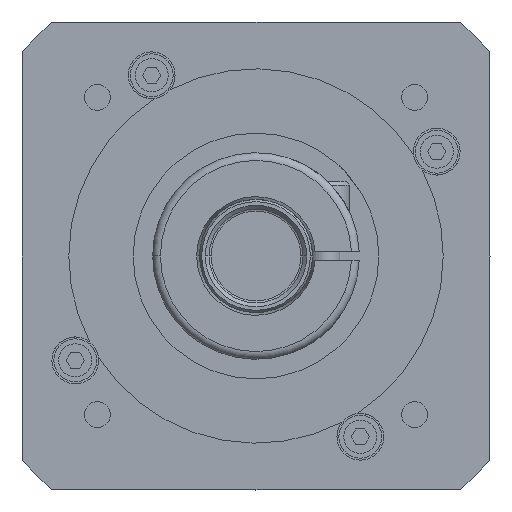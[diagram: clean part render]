
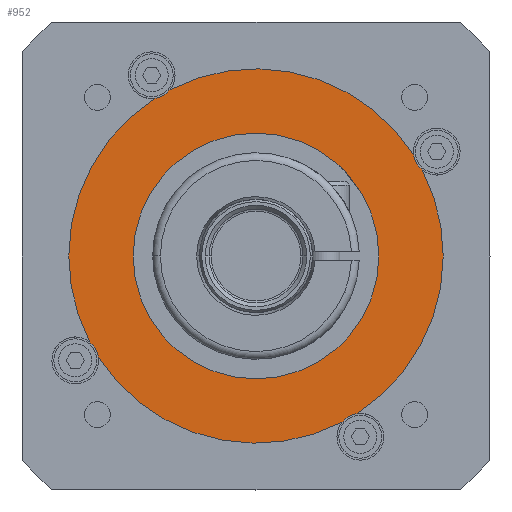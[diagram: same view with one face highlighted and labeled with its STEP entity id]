
A CAD part, left-side view. The second image highlights one B-rep face of the part: STEP entity #952.
In plain terms, the highlighted planar face has unit normal (-1, 0, 0).
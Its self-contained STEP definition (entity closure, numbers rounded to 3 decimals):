
#952=ADVANCED_FACE('',(#1952,#1953),#1954,.F.);
#1952=FACE_BOUND('',#3008,.T.);
#1953=FACE_OUTER_BOUND('',#3009,.T.);
#1954=PLANE('',#3010);
#3008=EDGE_LOOP('',(#5523,#5524));
#3009=EDGE_LOOP('',(#5525,#5526,#5527,#5528,#5529,#5530,#5531,#5532,#5533,#5534));
#3010=AXIS2_PLACEMENT_3D('',#5535,#5536,#5537);
#5523=ORIENTED_EDGE('',*,*,#6724,.T.);
#5524=ORIENTED_EDGE('',*,*,#6915,.T.);
#5525=ORIENTED_EDGE('',*,*,#6707,.F.);
#5526=ORIENTED_EDGE('',*,*,#6918,.F.);
#5527=ORIENTED_EDGE('',*,*,#6714,.F.);
#5528=ORIENTED_EDGE('',*,*,#6919,.F.);
#5529=ORIENTED_EDGE('',*,*,#6920,.F.);
#5530=ORIENTED_EDGE('',*,*,#6921,.F.);
#5531=ORIENTED_EDGE('',*,*,#6717,.F.);
#5532=ORIENTED_EDGE('',*,*,#6922,.F.);
#5533=ORIENTED_EDGE('',*,*,#6698,.F.);
#5534=ORIENTED_EDGE('',*,*,#6923,.F.);
#5535=CARTESIAN_POINT('',(-52.0,0.0,0.0));
#5536=DIRECTION('',(1.0,0.0,0.0));
#5537=DIRECTION('',(0.0,1.0,0.0));
#6698=EDGE_CURVE('',#8103,#8105,#8106,.T.);
#6707=EDGE_CURVE('',#8120,#8122,#8123,.T.);
#6714=EDGE_CURVE('',#8133,#8129,#8135,.T.);
#6717=EDGE_CURVE('',#8137,#8140,#8141,.T.);
#6724=EDGE_CURVE('',#8147,#8151,#8153,.T.);
#6915=EDGE_CURVE('',#8151,#8147,#8429,.T.);
#6918=EDGE_CURVE('',#8129,#8120,#8432,.T.);
#6919=EDGE_CURVE('',#8433,#8133,#8434,.T.);
#6920=EDGE_CURVE('',#8435,#8433,#8436,.T.);
#6921=EDGE_CURVE('',#8140,#8435,#8437,.T.);
#6922=EDGE_CURVE('',#8105,#8137,#8438,.T.);
#6923=EDGE_CURVE('',#8122,#8103,#8439,.T.);
#8103=VERTEX_POINT('',#10632);
#8105=VERTEX_POINT('',#10635);
#8106=CIRCLE('',#10636,6.0);
#8120=VERTEX_POINT('',#10653);
#8122=VERTEX_POINT('',#10656);
#8123=CIRCLE('',#10657,6.0);
#8129=VERTEX_POINT('',#10664);
#8133=VERTEX_POINT('',#10669);
#8135=CIRCLE('',#10672,48.0);
#8137=VERTEX_POINT('',#10674);
#8140=VERTEX_POINT('',#10678);
#8141=CIRCLE('',#10679,48.0);
#8147=VERTEX_POINT('',#10686);
#8151=VERTEX_POINT('',#10691);
#8153=CIRCLE('',#10694,31.5);
#8429=CIRCLE('',#11127,31.5);
#8432=CIRCLE('',#11130,48.0);
#8433=VERTEX_POINT('',#11131);
#8434=CIRCLE('',#11132,6.0);
#8435=VERTEX_POINT('',#11133);
#8436=CIRCLE('',#11134,48.0);
#8437=CIRCLE('',#11135,6.0);
#8438=CIRCLE('',#11136,48.0);
#8439=CIRCLE('',#11137,48.0);
#10632=CARTESIAN_POINT('',(-52.0,40.387,-25.94));
#10635=CARTESIAN_POINT('',(-52.0,42.658,-22.007));
#10636=AXIS2_PLACEMENT_3D('',#12623,#12624,#12625);
#10653=CARTESIAN_POINT('',(-52.0,-25.94,-40.387));
#10656=CARTESIAN_POINT('',(-52.0,-22.007,-42.658));
#10657=AXIS2_PLACEMENT_3D('',#12639,#12640,#12641);
#10664=CARTESIAN_POINT('',(-52.0,-48.0,0.));
#10669=CARTESIAN_POINT('',(-52.0,-42.658,22.007));
#10672=AXIS2_PLACEMENT_3D('',#12651,#12652,#12653);
#10674=CARTESIAN_POINT('',(-52.0,48.0,0.));
#10678=CARTESIAN_POINT('',(-52.0,25.94,40.387));
#10679=AXIS2_PLACEMENT_3D('',#12655,#12656,#12657);
#10686=CARTESIAN_POINT('',(-52.0,31.5,0.0));
#10691=CARTESIAN_POINT('',(-52.0,-31.5,0.));
#10694=AXIS2_PLACEMENT_3D('',#12667,#12668,#12669);
#11127=AXIS2_PLACEMENT_3D('',#12874,#12875,#12876);
#11130=AXIS2_PLACEMENT_3D('',#12880,#12881,#12882);
#11131=CARTESIAN_POINT('',(-52.0,-40.387,25.94));
#11132=AXIS2_PLACEMENT_3D('',#12883,#12884,#12885);
#11133=CARTESIAN_POINT('',(-52.0,22.007,42.658));
#11134=AXIS2_PLACEMENT_3D('',#12886,#12887,#12888);
#11135=AXIS2_PLACEMENT_3D('',#12889,#12890,#12891);
#11136=AXIS2_PLACEMENT_3D('',#12892,#12893,#12894);
#11137=AXIS2_PLACEMENT_3D('',#12895,#12896,#12897);
#12623=CARTESIAN_POINT('',(-52.0,46.332,-26.75));
#12624=DIRECTION('',(-1.0,0.0,0.0));
#12625=DIRECTION('',(0.0,1.0,0.0));
#12639=CARTESIAN_POINT('',(-52.0,-26.75,-46.332));
#12640=DIRECTION('',(-1.0,0.0,0.0));
#12641=DIRECTION('',(0.0,1.0,0.0));
#12651=CARTESIAN_POINT('',(-52.0,0.0,0.0));
#12652=DIRECTION('',(1.0,0.0,0.0));
#12653=DIRECTION('',(0.0,1.0,0.0));
#12655=CARTESIAN_POINT('',(-52.0,0.0,0.0));
#12656=DIRECTION('',(1.0,0.0,0.0));
#12657=DIRECTION('',(0.0,1.0,0.0));
#12667=CARTESIAN_POINT('',(-52.0,0.0,0.0));
#12668=DIRECTION('',(1.0,0.0,0.0));
#12669=DIRECTION('',(0.0,1.0,0.0));
#12874=CARTESIAN_POINT('',(-52.0,0.0,0.0));
#12875=DIRECTION('',(1.0,0.0,0.0));
#12876=DIRECTION('',(0.0,1.0,0.0));
#12880=CARTESIAN_POINT('',(-52.0,0.0,0.0));
#12881=DIRECTION('',(1.0,0.0,0.0));
#12882=DIRECTION('',(0.0,1.0,0.0));
#12883=CARTESIAN_POINT('',(-52.0,-46.332,26.75));
#12884=DIRECTION('',(-1.0,0.0,0.0));
#12885=DIRECTION('',(0.0,1.0,0.0));
#12886=CARTESIAN_POINT('',(-52.0,0.0,0.0));
#12887=DIRECTION('',(1.0,0.0,0.0));
#12888=DIRECTION('',(0.0,1.0,0.0));
#12889=CARTESIAN_POINT('',(-52.0,26.75,46.332));
#12890=DIRECTION('',(-1.0,0.0,0.0));
#12891=DIRECTION('',(0.0,1.0,0.0));
#12892=CARTESIAN_POINT('',(-52.0,0.0,0.0));
#12893=DIRECTION('',(1.0,0.0,0.0));
#12894=DIRECTION('',(0.0,1.0,0.0));
#12895=CARTESIAN_POINT('',(-52.0,0.0,0.0));
#12896=DIRECTION('',(1.0,0.0,0.0));
#12897=DIRECTION('',(0.0,1.0,0.0));
